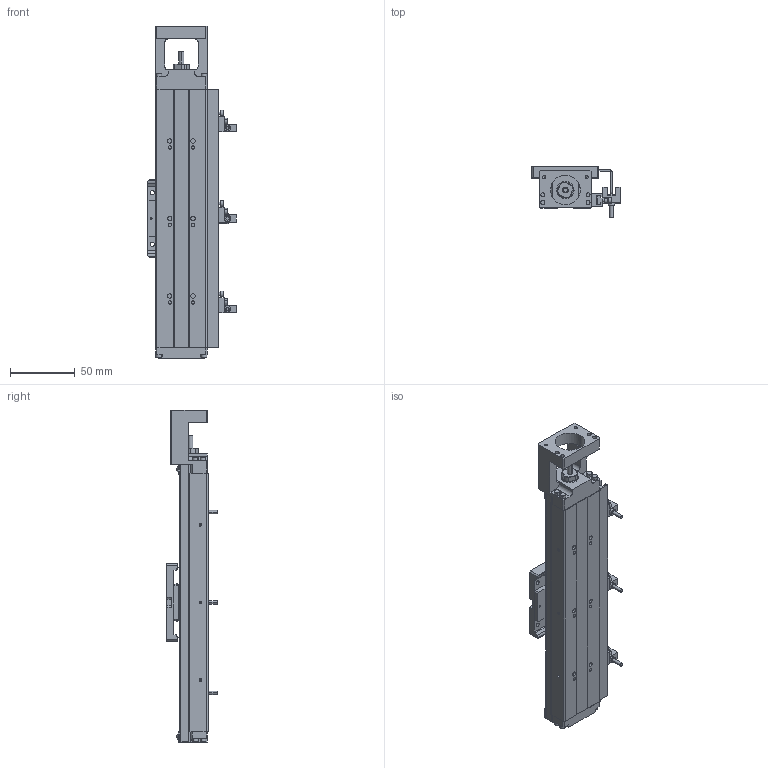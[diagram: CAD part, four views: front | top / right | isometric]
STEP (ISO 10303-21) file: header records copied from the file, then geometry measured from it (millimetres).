
FILE_DESCRIPTION (( 'STEP AP203' ), '1' );
FILE_NAME ('GKAC2040-130-12N-P2-CPXXX-網站用圖.STEP', '2023-04-19T04:25:39', ( '' ), ( '' ), 'SwSTEP 2.0', 'SolidWorks 2019', '' );
FILE_SCHEMA (( 'CONFIG_CONTROL_DESIGN' ));
Length unit declared in the file: millimetre
Products named in the file (3): GKAC2040-130-12N-P2-CPXXX-網站用圖; Group2^GKAC2040-130-12N-P2-CPXXX_defeature-網站用圖_GMT; Group1^GKAC2040-130-12N-P2-CPXXX_defeature-網站用圖_GMT
Assembly tree (2 placements, depth 2):
  GKAC2040-130-12N-P2-CPXXX-網站用圖
    Group1^GKAC2040-130-12N-P2-CPXXX_defeature-網站用圖_GMT
    Group2^GKAC2040-130-12N-P2-CPXXX_defeature-網站用圖_GMT
Bounding box: 68.4 x 39.1 x 257 mm (x, y, z)
Volume: 161715.1 mm3; surface area: 99186.3 mm2
Topology: 2 solids, 10 shells, 1621 faces, 4299 edges, 2676 vertices
Faces by surface type: plane 863, cylinder 474, cone 142, torus 116, sphere 24, bspline 2
Entity records: 50954 total; most frequent: CARTESIAN_POINT 9640, DIRECTION 8937, ORIENTED_EDGE 8506, EDGE_CURVE 4253, AXIS2_PLACEMENT_3D 3279, VERTEX_POINT 2676, VECTOR 2379, LINE 2379
